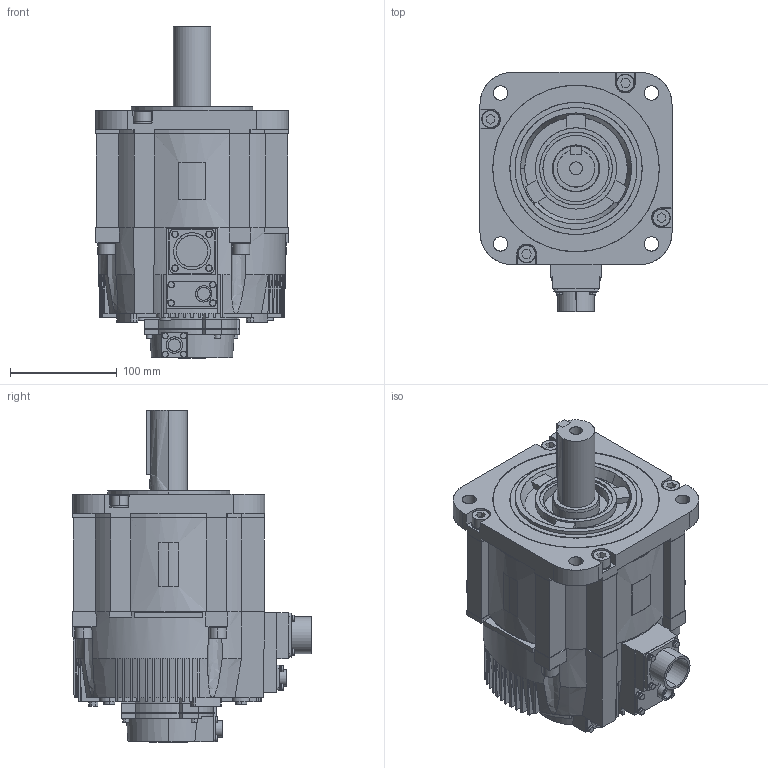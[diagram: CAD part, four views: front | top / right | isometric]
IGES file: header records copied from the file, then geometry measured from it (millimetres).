
Start section: SolidWorks IGES file using analytic representation for surfaces
Global section: file name: D:\YASKAWA\sgm7g_44__a6c.IGS; native system: SolidWorks 2006 by SolidWorks Corporation; preprocessor: SolidWorks 2006 by SolidWorks Corporation; author: yamanouchi; date: 140507.140938; units: millimetre
Bounding box: 180 x 223.85 x 311.1 mm (x, y, z)
Surface area: 278553.1 mm2 (no closed solid volume)
Topology: 0 solids, 0 shells, 956 faces, 12189 edges, 12186 vertices
Faces by surface type: bspline 628, revolution 328
